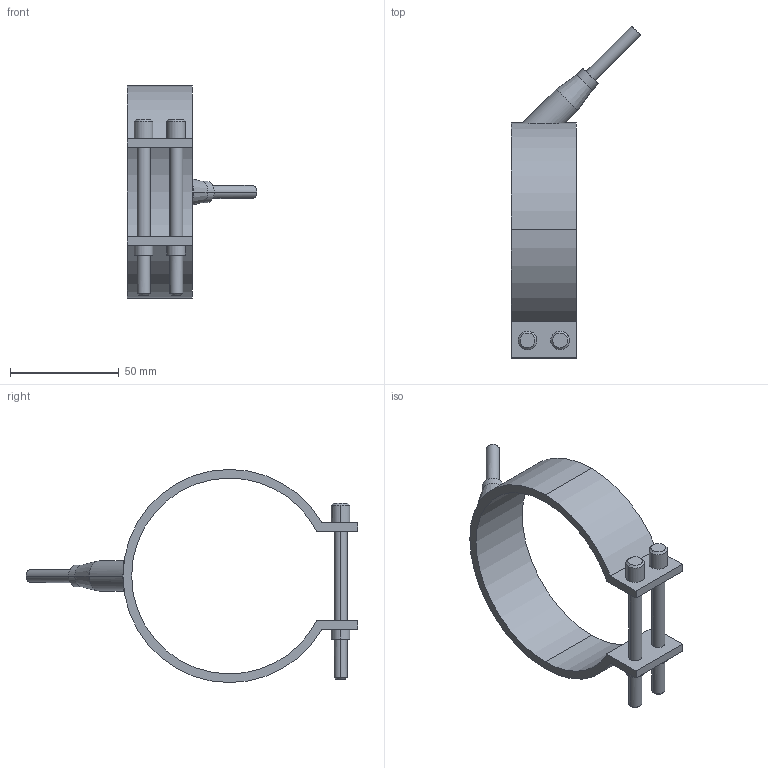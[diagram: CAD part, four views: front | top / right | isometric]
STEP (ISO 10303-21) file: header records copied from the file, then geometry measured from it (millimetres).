
FILE_DESCRIPTION(('CATIA V5 STEP Exchange'),'2;1');
FILE_NAME('C:\Users\Utente\Desktop\IO LAVORO\3D X SITO CF\X SITO\PLASTICA\RF1\29090030.stp','2021-03-29T18:00:44+00:00',('none'),('none'),'CATIA Version 5 Release 20 GA (IN-10)','CATIA V5 STEP AP203','none');
FILE_SCHEMA(('CONFIG_CONTROL_DESIGN'));
Length unit declared in the file: millimetre
Products named in the file (1): 29090030
Bounding box: 59.55 x 152.55 x 98 mm (x, y, z)
Volume: 43736.4 mm3; surface area: 24002.6 mm2
Topology: 1 solids, 1 shells, 54 faces, 123 edges, 79 vertices
Faces by surface type: cylinder 28, plane 16, cone 10
Entity records: 1734 total; most frequent: CARTESIAN_POINT 502, ORIENTED_EDGE 246, DIRECTION 213, EDGE_CURVE 123, AXIS2_PLACEMENT_3D 106, VERTEX_POINT 79, EDGE_LOOP 66, VECTOR 56
